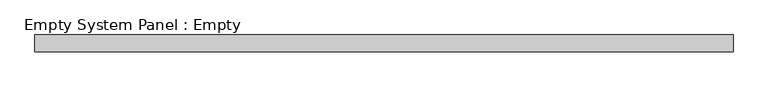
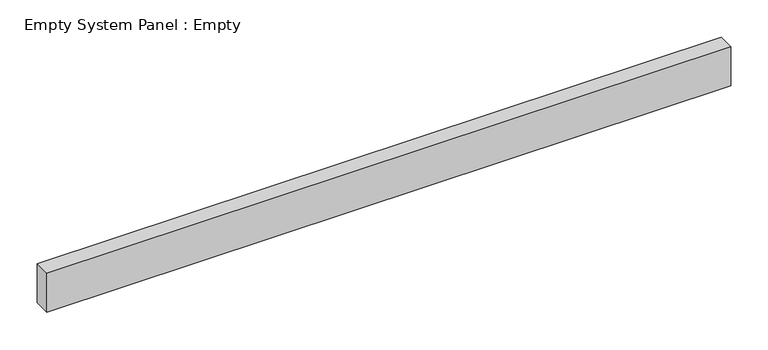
"""IFC4 building model written with IfcOpenShell, lengths in millimetres: plate geometry, Empty System Panel : Empty."""

from ifc_helpers import new_model, si_unit, origin, origin_with_axes, place, context, project, spatial, polyline, outline, extrude, source, transform, mapped, element, save


def empty_system_panel_empty_2cf1065d(model_context):
    return source(origin(), model_context, "Body", "SweptSolid", [
        extrude(outline(polyline([(527.05, 19.05), (-527.05, 19.05), (-527.05, 44.45), (527.05, 44.45), (527.05, 19.05)])), origin_with_axes(), (0.0, 0.0, 1.0), 63.5),
    ])


if __name__ == "__main__":
    model = new_model("IFC4")
    model_context = context("Model", 3, world=origin())
    ifc_project = project(units=[si_unit("LENGTHUNIT", "METRE", prefix="MILLI")], contexts=[model_context])
    site = spatial("IfcSite", under=ifc_project)
    building = spatial("IfcBuilding", under=site)
    placement = place(None, origin())
    empty_system_panel_empty_shape = empty_system_panel_empty_2cf1065d(model_context)
    element("IfcPlate", 1, ObjectType="Empty System Panel : Empty", at=placement, inside=building, context=model_context, shape_type="MappedRepresentation", body=[
        mapped(empty_system_panel_empty_shape, transform((0.0, 0.0, 0.0), x_axis=(1.0, 0.0, 0.0), y_axis=(0.0, 1.0, 0.0), z_axis=(0.0, 0.0, 1.0))),
    ])
    save(model, "model.ifc")
